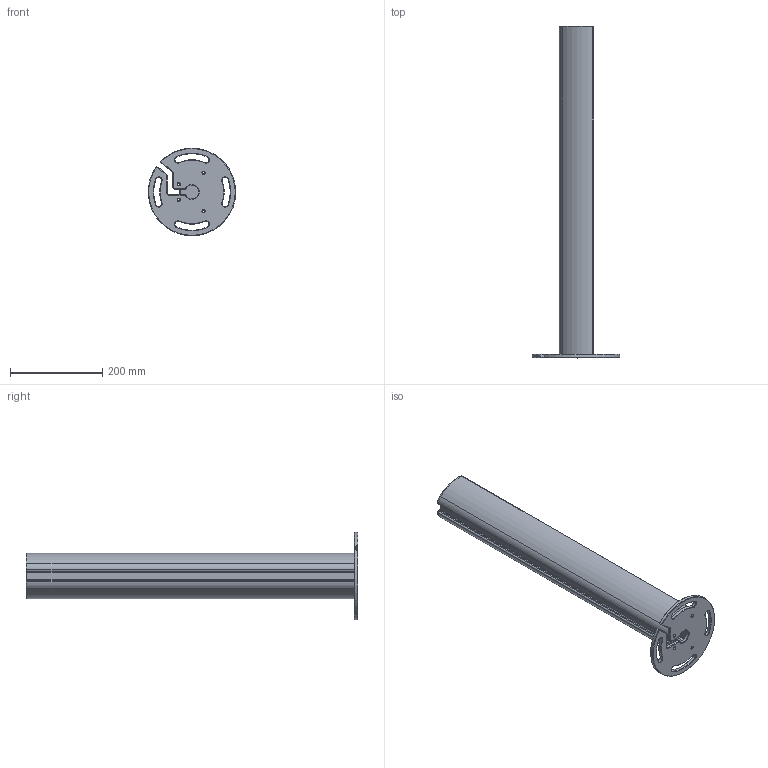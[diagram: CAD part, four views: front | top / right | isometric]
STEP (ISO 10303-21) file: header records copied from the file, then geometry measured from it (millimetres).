
FILE_DESCRIPTION((''),'2;1');
FILE_NAME('ESQC_ASM','2022-07-19T12:09:39',('18822879468'),(''),'CREO PARAMETRIC BY PTC INC, 2019010','CREO PARAMETRIC BY PTC INC, 2019010','');
FILE_SCHEMA(('CONFIG_CONTROL_DESIGN'));
Length unit declared in the file: millimetre
Products named in the file (5): 00; _-0001; _-0002; 000; ESQC_ASM
Assembly tree (4 placements, depth 2):
  ESQC_ASM
    00
    _-0001
    _-0002
    000
Bounding box: 189.81 x 720 x 189.85 mm (x, y, z)
Volume: 1144361.6 mm3; surface area: 590313 mm2
Topology: 4 solids, 4 shells, 239 faces, 613 edges, 378 vertices
Faces by surface type: cylinder 98, plane 73, cone 68
Entity records: 7388 total; most frequent: DIRECTION 1365, CARTESIAN_POINT 1235, ORIENTED_EDGE 1218, EDGE_CURVE 609, AXIS2_PLACEMENT_3D 508, VERTEX_POINT 378, VECTOR 349, LINE 349
